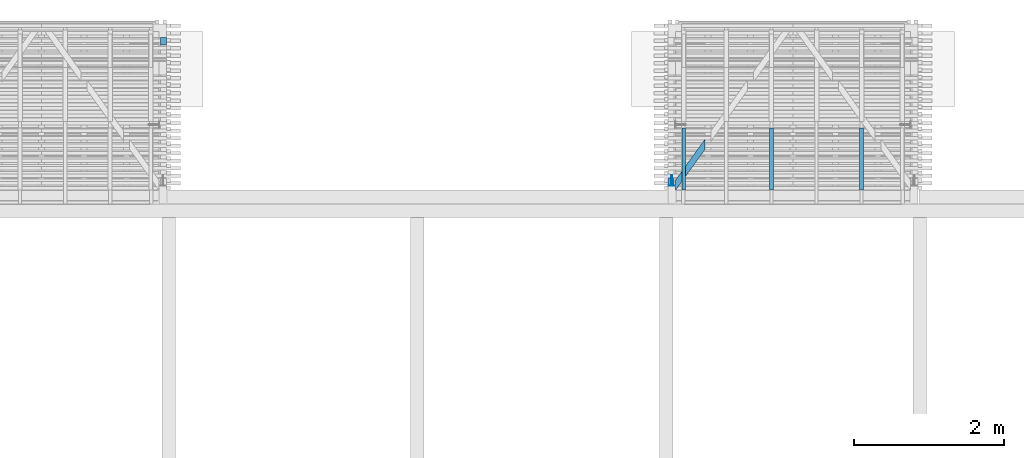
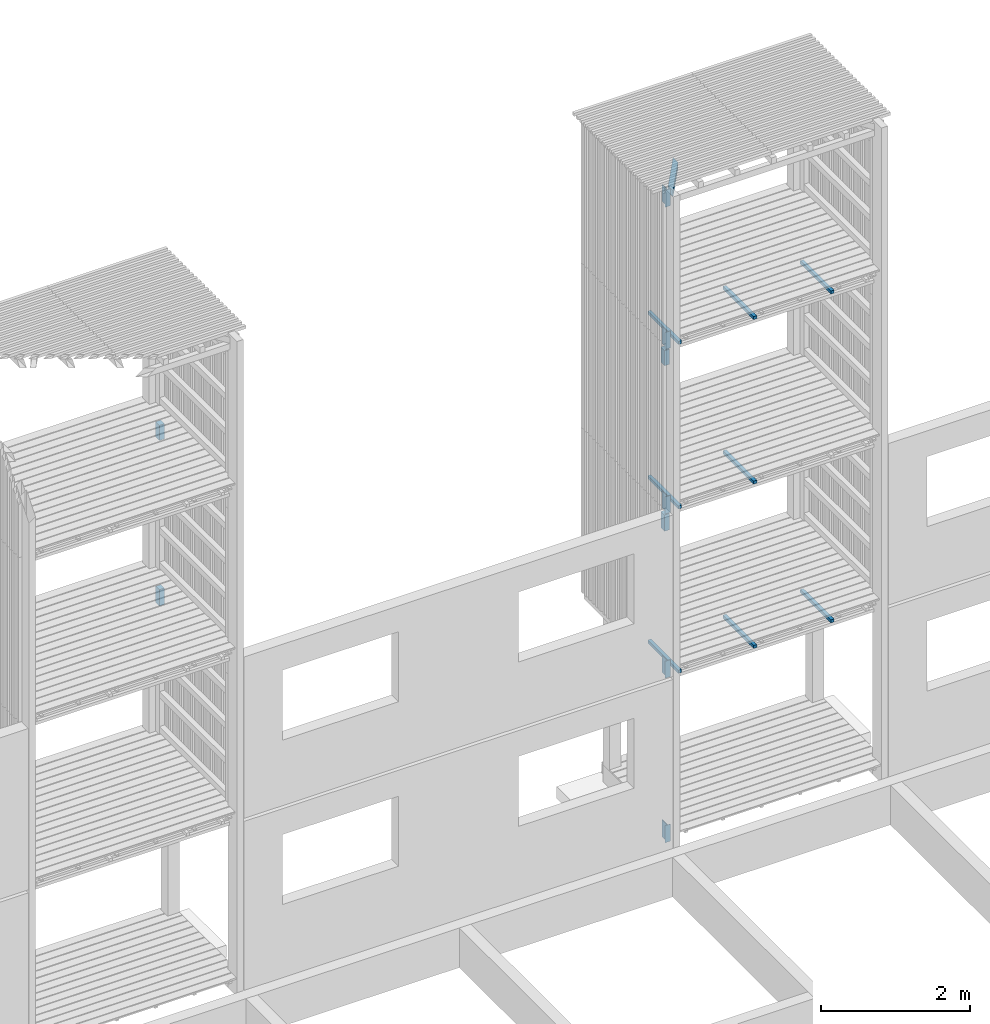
# One storey, part 164 of 182: 18 beams.
"""IFC2X3 building model written with IfcOpenShell, lengths in metres."""

from ifc_helpers import new_model, si_unit, frame, origin, place, context, project, spatial, faceted_brep, element, save


model = new_model("IFC2X3")

# Units and contexts
model_context = context("Model", 3, precision=1e-06, world=origin())
ifc_project = project(units=[si_unit("LENGTHUNIT", "METRE"), si_unit("PLANEANGLEUNIT", "RADIAN")], contexts=[model_context])

# Site, building, storey
site = spatial("IfcSite", under=ifc_project, CompositionType="ELEMENT")
building = spatial("IfcBuilding", under=site, CompositionType="ELEMENT")
storey = spatial("IfcBuildingStorey", under=building, Name="vs", CompositionType="ELEMENT", Elevation=-0.85)

# Beams
placement = place(None, origin())
beam_1_placement = place(placement, frame((13.333197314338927, 10.781077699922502, 2.579999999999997), z_axis=(0.0, 0.0, 1.0), x_axis=(1.0, 0.0, 0.0)))
element("IfcBeam", 1, at=beam_1_placement, inside=storey, Name="Contre-usinage", context=model_context, shape_type="Brep", body=[
    faceted_brep([(0.037000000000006, -0.065999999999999, -0.14), (0.037000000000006, 0.071000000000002, -0.14), (0.045000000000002, 0.071000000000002, -0.14), (0.045000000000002, -0.065999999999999, -0.14), (0.082000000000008, -0.065999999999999, -0.14), (0.082000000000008, -0.071000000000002, -0.14), (0.0, -0.071000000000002, -0.14), (0.0, -0.065999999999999, -0.14), (0.045000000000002, 0.071000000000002, -0.14), (0.037000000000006, 0.071000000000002, -0.14), (0.037000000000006, 0.071000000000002, 0.14), (0.045000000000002, 0.071000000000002, 0.14), (0.045000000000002, -0.065999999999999, 0.14), (0.045000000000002, -0.065999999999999, -0.14), (0.045000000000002, 0.071000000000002, -0.14), (0.045000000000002, 0.071000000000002, 0.14), (0.082000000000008, -0.065999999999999, -0.14), (0.045000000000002, -0.065999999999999, -0.14), (0.045000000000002, -0.065999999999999, 0.14), (0.082000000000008, -0.065999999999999, 0.14), (0.082000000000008, -0.071000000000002, -0.14), (0.082000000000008, -0.065999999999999, -0.14), (0.082000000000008, -0.065999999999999, 0.14), (0.082000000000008, -0.071000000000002, 0.14), (0.0, -0.071000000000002, -0.14), (0.082000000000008, -0.071000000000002, -0.14), (0.082000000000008, -0.071000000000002, 0.14), (0.0, -0.071000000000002, 0.14), (0.0, -0.065999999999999, -0.14), (0.0, -0.071000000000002, -0.14), (0.0, -0.071000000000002, 0.14), (0.0, -0.065999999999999, 0.14), (0.037000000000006, -0.065999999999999, -0.14), (0.0, -0.065999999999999, -0.14), (0.0, -0.065999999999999, 0.14), (0.037000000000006, -0.065999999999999, 0.14), (0.037000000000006, 0.071000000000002, 0.14), (0.037000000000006, 0.071000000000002, -0.14), (0.037000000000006, -0.065999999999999, -0.14), (0.037000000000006, -0.065999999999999, 0.14), (0.082000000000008, -0.065999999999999, 0.14), (0.045000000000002, -0.065999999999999, 0.14), (0.045000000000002, 0.071000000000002, 0.14), (0.037000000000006, 0.071000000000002, 0.14), (0.037000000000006, -0.065999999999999, 0.14), (0.0, -0.065999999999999, 0.14), (0.0, -0.071000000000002, 0.14), (0.082000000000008, -0.071000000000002, 0.14)], [[[0, 1, 2, 3, 4, 5, 6, 7]], [[8, 9, 10, 11]], [[12, 13, 14, 15]], [[16, 17, 18, 19]], [[20, 21, 22, 23]], [[24, 25, 26, 27]], [[28, 29, 30, 31]], [[32, 33, 34, 35]], [[36, 37, 38, 39]], [[40, 41, 42, 43, 44, 45, 46, 47]]]),
])
beam_2_placement = place(placement, frame((13.364197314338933, 10.760077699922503, 7.576188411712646), z_axis=(0.0, 1.0, 0.0), x_axis=(0.0, 0.0, 1.0)))
element("IfcBeam", 2, at=beam_2_placement, inside=storey, Name="Support bardage", context=model_context, shape_type="Brep", body=[
    faceted_brep([(0.248811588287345, -0.039999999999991, 0.05), (0.248811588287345, -0.039999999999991, -0.050000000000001), (0.248811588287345, 0.040000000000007, -0.050000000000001), (0.248811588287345, 0.040000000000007, 0.05), (0.248811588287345, 0.040000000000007, -0.050000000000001), (0.248811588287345, -0.039999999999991, -0.050000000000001), (0.0, -0.039999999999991, -0.050000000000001), (0.0, 0.040000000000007, -0.050000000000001), (0.248811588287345, -0.039999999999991, -0.050000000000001), (0.248811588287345, -0.039999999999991, 0.05), (0.0, -0.039999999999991, 0.05), (0.0, -0.039999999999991, -0.050000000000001), (0.248811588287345, -0.039999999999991, 0.05), (0.248811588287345, 0.040000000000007, 0.05), (0.0, 0.040000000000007, 0.05), (0.0, -0.039999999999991, 0.05), (0.248811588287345, 0.040000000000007, 0.05), (0.248811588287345, 0.040000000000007, -0.050000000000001), (0.0, 0.040000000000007, -0.050000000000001), (0.0, 0.040000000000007, 0.05), (0.0, -0.039999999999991, 0.05), (0.0, 0.040000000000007, 0.05), (0.0, 0.040000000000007, -0.050000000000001), (0.0, -0.039999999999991, -0.050000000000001)], [[[0, 1, 2, 3]], [[4, 5, 6, 7]], [[8, 9, 10, 11]], [[12, 13, 14, 15]], [[16, 17, 18, 19]], [[20, 21, 22, 23]]]),
])
beam_3_placement = place(placement, frame((13.333197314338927, 10.781077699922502, -0.119999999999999), z_axis=(0.0, 0.0, 1.0), x_axis=(1.0, 0.0, 0.0)))
element("IfcBeam", 3, at=beam_3_placement, inside=storey, Name="Contre-usinage", context=model_context, shape_type="Brep", body=[
    faceted_brep([(0.037000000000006, -0.065999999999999, -0.14), (0.037000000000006, 0.071000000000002, -0.14), (0.045000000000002, 0.071000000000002, -0.14), (0.045000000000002, -0.065999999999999, -0.14), (0.082000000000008, -0.065999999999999, -0.14), (0.082000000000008, -0.071000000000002, -0.14), (0.0, -0.071000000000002, -0.14), (0.0, -0.065999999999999, -0.14), (0.045000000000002, 0.071000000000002, -0.14), (0.037000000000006, 0.071000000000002, -0.14), (0.037000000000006, 0.071000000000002, 0.14), (0.045000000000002, 0.071000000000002, 0.14), (0.045000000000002, -0.065999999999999, 0.14), (0.045000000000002, -0.065999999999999, -0.14), (0.045000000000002, 0.071000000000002, -0.14), (0.045000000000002, 0.071000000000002, 0.14), (0.082000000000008, -0.065999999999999, -0.14), (0.045000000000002, -0.065999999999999, -0.14), (0.045000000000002, -0.065999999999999, 0.14), (0.082000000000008, -0.065999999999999, 0.14), (0.082000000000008, -0.071000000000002, -0.14), (0.082000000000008, -0.065999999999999, -0.14), (0.082000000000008, -0.065999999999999, 0.14), (0.082000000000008, -0.071000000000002, 0.14), (0.0, -0.071000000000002, -0.14), (0.082000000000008, -0.071000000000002, -0.14), (0.082000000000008, -0.071000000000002, 0.14), (0.0, -0.071000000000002, 0.14), (0.0, -0.065999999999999, -0.14), (0.0, -0.071000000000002, -0.14), (0.0, -0.071000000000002, 0.14), (0.0, -0.065999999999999, 0.14), (0.037000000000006, -0.065999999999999, -0.14), (0.0, -0.065999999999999, -0.14), (0.0, -0.065999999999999, 0.14), (0.037000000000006, -0.065999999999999, 0.14), (0.037000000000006, 0.071000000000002, 0.14), (0.037000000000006, 0.071000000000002, -0.14), (0.037000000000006, -0.065999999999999, -0.14), (0.037000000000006, -0.065999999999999, 0.14), (0.082000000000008, -0.065999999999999, 0.14), (0.045000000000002, -0.065999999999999, 0.14), (0.045000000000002, 0.071000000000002, 0.14), (0.037000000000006, 0.071000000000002, 0.14), (0.037000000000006, -0.065999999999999, 0.14), (0.0, -0.065999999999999, 0.14), (0.0, -0.071000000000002, 0.14), (0.082000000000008, -0.071000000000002, 0.14)], [[[0, 1, 2, 3, 4, 5, 6, 7]], [[8, 9, 10, 11]], [[12, 13, 14, 15]], [[16, 17, 18, 19]], [[20, 21, 22, 23]], [[24, 25, 26, 27]], [[28, 29, 30, 31]], [[32, 33, 34, 35]], [[36, 37, 38, 39]], [[40, 41, 42, 43, 44, 45, 46, 47]]]),
])
beam_4_placement = place(placement, frame((6.604197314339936, 12.640077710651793, 4.85796194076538), z_axis=(0.0, -1.0, 0.0), x_axis=(0.0, 0.0, 1.0)))
element("IfcBeam", 4, at=beam_4_placement, inside=storey, Name="Support bardage", context=model_context, shape_type="Brep", body=[
    faceted_brep([(0.267038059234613, -0.039999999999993, -0.05), (0.267038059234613, 0.04000000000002, -0.05), (0.267038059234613, 0.04000000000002, 0.050000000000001), (0.267038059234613, -0.039999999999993, 0.050000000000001), (0.267038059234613, -0.039999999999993, -0.05), (0.267038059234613, -0.039999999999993, 0.050000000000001), (0.0, -0.039999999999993, 0.050000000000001), (0.0, -0.039999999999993, -0.05), (0.267038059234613, 0.04000000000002, -0.05), (0.267038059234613, -0.039999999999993, -0.05), (0.0, -0.039999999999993, -0.05), (0.0, 0.04000000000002, -0.05), (0.0, -0.039999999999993, 0.050000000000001), (0.267038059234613, -0.039999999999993, 0.050000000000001), (0.267038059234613, 0.04000000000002, 0.050000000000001), (0.0, 0.04000000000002, 0.050000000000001), (0.0, 0.04000000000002, 0.050000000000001), (0.267038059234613, 0.04000000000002, 0.050000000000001), (0.267038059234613, 0.04000000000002, -0.05), (0.0, 0.04000000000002, -0.05), (0.0, -0.039999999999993, 0.050000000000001), (0.0, 0.04000000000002, 0.050000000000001), (0.0, 0.04000000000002, -0.05), (0.0, -0.039999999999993, -0.05)], [[[0, 1, 2, 3]], [[4, 5, 6, 7]], [[8, 9, 10, 11]], [[12, 13, 14, 15]], [[16, 17, 18, 19]], [[20, 21, 22, 23]]]),
])
beam_5_placement = place(placement, frame((13.364197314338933, 10.760077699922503, 4.85796194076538), z_axis=(0.0, 1.0, 0.0), x_axis=(0.0, 0.0, 1.0)))
element("IfcBeam", 5, at=beam_5_placement, inside=storey, Name="Support bardage", context=model_context, shape_type="Brep", body=[
    faceted_brep([(0.267038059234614, -0.039999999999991, 0.05), (0.267038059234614, -0.039999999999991, -0.050000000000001), (0.267038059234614, 0.040000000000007, -0.050000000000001), (0.267038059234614, 0.040000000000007, 0.05), (0.267038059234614, 0.040000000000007, -0.050000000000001), (0.267038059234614, -0.039999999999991, -0.050000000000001), (0.0, -0.039999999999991, -0.050000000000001), (0.0, 0.040000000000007, -0.050000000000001), (0.267038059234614, 0.040000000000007, 0.05), (0.267038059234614, 0.040000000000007, -0.050000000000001), (0.0, 0.040000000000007, -0.050000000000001), (0.0, 0.040000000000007, 0.05), (0.267038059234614, -0.039999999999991, -0.050000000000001), (0.267038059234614, -0.039999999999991, 0.05), (0.0, -0.039999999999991, 0.05), (0.0, -0.039999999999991, -0.050000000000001), (0.267038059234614, -0.039999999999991, 0.05), (0.267038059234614, 0.040000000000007, 0.05), (0.0, 0.040000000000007, 0.05), (0.0, -0.039999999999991, 0.05), (0.0, -0.039999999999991, -0.050000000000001), (0.0, -0.039999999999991, 0.05), (0.0, 0.040000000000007, 0.05), (0.0, 0.040000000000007, -0.050000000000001)], [[[0, 1, 2, 3]], [[4, 5, 6, 7]], [[8, 9, 10, 11]], [[12, 13, 14, 15]], [[16, 17, 18, 19]], [[20, 21, 22, 23]]]),
])
beam_6_placement = place(placement, frame((6.604197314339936, 12.640077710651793, 7.576188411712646), z_axis=(0.0, -1.0, 0.0), x_axis=(0.0, 0.0, 1.0)))
element("IfcBeam", 6, at=beam_6_placement, inside=storey, Name="Support bardage", context=model_context, shape_type="Brep", body=[
    faceted_brep([(0.248811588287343, -0.039999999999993, -0.05), (0.248811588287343, 0.04000000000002, -0.05), (0.248811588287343, 0.04000000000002, 0.050000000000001), (0.248811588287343, -0.039999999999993, 0.050000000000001), (0.248811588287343, -0.039999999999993, -0.05), (0.248811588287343, -0.039999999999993, 0.050000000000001), (0.0, -0.039999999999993, 0.050000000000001), (0.0, -0.039999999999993, -0.05), (0.0, -0.039999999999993, 0.050000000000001), (0.248811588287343, -0.039999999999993, 0.050000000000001), (0.248811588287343, 0.04000000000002, 0.050000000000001), (0.0, 0.04000000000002, 0.050000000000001), (0.0, 0.04000000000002, 0.050000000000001), (0.248811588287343, 0.04000000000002, 0.050000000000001), (0.248811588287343, 0.04000000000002, -0.05), (0.0, 0.04000000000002, -0.05), (0.0, 0.04000000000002, -0.05), (0.248811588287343, 0.04000000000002, -0.05), (0.248811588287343, -0.039999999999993, -0.05), (0.0, -0.039999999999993, -0.05), (0.0, 0.04000000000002, 0.050000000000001), (0.0, 0.04000000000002, -0.05), (0.0, -0.039999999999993, -0.05), (0.0, -0.039999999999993, 0.050000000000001)], [[[0, 1, 2, 3]], [[4, 5, 6, 7]], [[8, 9, 10, 11]], [[12, 13, 14, 15]], [[16, 17, 18, 19]], [[20, 21, 22, 23]]]),
])
beam_7_placement = place(placement, frame((15.90219731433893, 10.655077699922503, 2.517999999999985), z_axis=(0.0, 0.0, 1.0), x_axis=(0.0, 1.0, 0.0)))
element("IfcBeam", 7, at=beam_7_placement, inside=storey, Name="Calage", context=model_context, shape_type="Brep", body=[
    faceted_brep([(0.824999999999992, -0.025000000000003, 0.025), (0.824999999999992, 0.024999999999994, 0.025), (-1e-15, 0.024999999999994, 0.025), (-1e-15, -0.025000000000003, 0.025), (-1e-15, 0.024999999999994, 0.025), (0.824999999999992, 0.024999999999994, 0.025), (0.824999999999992, 0.024999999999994, -0.025), (-1e-15, 0.024999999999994, -0.025), (0.824999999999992, 0.024999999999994, 0.025), (0.824999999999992, -0.025000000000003, 0.025), (0.824999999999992, -0.025000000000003, -0.025), (0.824999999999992, 0.024999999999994, -0.025), (0.824999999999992, -0.025000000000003, -0.025), (0.824999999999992, -0.025000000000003, 0.025), (-1e-15, -0.025000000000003, 0.025), (-1e-15, -0.025000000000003, -0.025), (-1e-15, 0.024999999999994, -0.025), (0.824999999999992, 0.024999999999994, -0.025), (0.824999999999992, -0.025000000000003, -0.025), (-1e-15, -0.025000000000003, -0.025), (-1e-15, 0.024999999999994, 0.025), (-1e-15, 0.024999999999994, -0.025), (-1e-15, -0.025000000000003, -0.025), (-1e-15, -0.025000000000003, 0.025)], [[[0, 1, 2, 3]], [[4, 5, 6, 7]], [[8, 9, 10, 11]], [[12, 13, 14, 15]], [[16, 17, 18, 19]], [[20, 21, 22, 23]]]),
])
for number, where, z_axis, x_axis in (
    (8, (14.702197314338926, 10.655077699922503, 2.517999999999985), (0.0, 0.0, 1.0), (0.0, 1.0, 0.0)),
    (9, (13.534197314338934, 10.655077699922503, 2.517999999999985), (0.0, 0.0, 1.0), (0.0, 1.0, 0.0)),
):
    element("IfcBeam", number, at=place(placement, frame(where, z_axis=z_axis, x_axis=x_axis)), inside=storey, Name="Calage", context=model_context, shape_type="Brep", body=[
        faceted_brep([(0.824999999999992, -0.025000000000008, 0.025), (0.824999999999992, 0.024999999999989, 0.025), (-1e-15, 0.024999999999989, 0.025), (-1e-15, -0.025000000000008, 0.025), (-1e-15, 0.024999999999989, 0.025), (0.824999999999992, 0.024999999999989, 0.025), (0.824999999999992, 0.024999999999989, -0.025), (-1e-15, 0.024999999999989, -0.025), (0.824999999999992, 0.024999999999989, 0.025), (0.824999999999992, -0.025000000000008, 0.025), (0.824999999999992, -0.025000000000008, -0.025), (0.824999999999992, 0.024999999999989, -0.025), (0.824999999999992, -0.025000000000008, -0.025), (0.824999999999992, -0.025000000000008, 0.025), (-1e-15, -0.025000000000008, 0.025), (-1e-15, -0.025000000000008, -0.025), (-1e-15, 0.024999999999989, -0.025), (0.824999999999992, 0.024999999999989, -0.025), (0.824999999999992, -0.025000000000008, -0.025), (-1e-15, -0.025000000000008, -0.025), (-1e-15, 0.024999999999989, 0.025), (-1e-15, 0.024999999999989, -0.025), (-1e-15, -0.025000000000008, -0.025), (-1e-15, -0.025000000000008, 0.025)], [[[0, 1, 2, 3]], [[4, 5, 6, 7]], [[8, 9, 10, 11]], [[12, 13, 14, 15]], [[16, 17, 18, 19]], [[20, 21, 22, 23]]]),
    ])
beam_8_placement = place(placement, frame((13.33319731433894, 10.781077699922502, 10.314999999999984), z_axis=(0.0, 0.0, 1.0), x_axis=(1.0, 0.0, 0.0)))
element("IfcBeam", 10, at=beam_8_placement, inside=storey, Name="Contre-usinage", context=model_context, shape_type="Brep", body=[
    faceted_brep([(0.037000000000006, -0.065999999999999, -0.140000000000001), (0.037000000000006, 0.071000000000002, -0.140000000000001), (0.045000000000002, 0.071000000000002, -0.140000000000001), (0.045000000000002, -0.065999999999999, -0.140000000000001), (0.081999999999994, -0.065999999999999, -0.140000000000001), (0.081999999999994, -0.071000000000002, -0.140000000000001), (0.0, -0.071000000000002, -0.140000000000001), (0.0, -0.065999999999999, -0.140000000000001), (0.045000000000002, 0.071000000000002, -0.140000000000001), (0.037000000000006, 0.071000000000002, -0.140000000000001), (0.037000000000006, 0.071000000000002, 0.140000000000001), (0.045000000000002, 0.071000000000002, 0.140000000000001), (0.045000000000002, -0.065999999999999, 0.140000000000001), (0.045000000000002, -0.065999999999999, -0.140000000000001), (0.045000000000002, 0.071000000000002, -0.140000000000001), (0.045000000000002, 0.071000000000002, 0.140000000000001), (0.081999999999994, -0.065999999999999, -0.140000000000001), (0.045000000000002, -0.065999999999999, -0.140000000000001), (0.045000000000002, -0.065999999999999, 0.140000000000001), (0.081999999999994, -0.065999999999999, 0.140000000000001), (0.081999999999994, -0.071000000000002, -0.140000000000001), (0.081999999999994, -0.065999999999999, -0.140000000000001), (0.081999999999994, -0.065999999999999, 0.140000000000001), (0.081999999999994, -0.071000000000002, 0.140000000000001), (0.0, -0.071000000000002, -0.140000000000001), (0.081999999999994, -0.071000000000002, -0.140000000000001), (0.081999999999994, -0.071000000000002, 0.140000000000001), (0.0, -0.071000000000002, 0.140000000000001), (0.0, -0.065999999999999, -0.140000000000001), (0.0, -0.071000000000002, -0.140000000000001), (0.0, -0.071000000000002, 0.140000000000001), (0.0, -0.065999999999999, 0.140000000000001), (0.037000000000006, -0.065999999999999, -0.140000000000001), (0.0, -0.065999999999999, -0.140000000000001), (0.0, -0.065999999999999, 0.140000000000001), (0.037000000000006, -0.065999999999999, 0.140000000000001), (0.037000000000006, 0.071000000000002, 0.140000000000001), (0.037000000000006, 0.071000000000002, -0.140000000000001), (0.037000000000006, -0.065999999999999, -0.140000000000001), (0.037000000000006, -0.065999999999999, 0.140000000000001), (0.081999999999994, -0.065999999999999, 0.140000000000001), (0.045000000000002, -0.065999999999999, 0.140000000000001), (0.045000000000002, 0.071000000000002, 0.140000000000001), (0.037000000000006, 0.071000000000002, 0.140000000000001), (0.037000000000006, -0.065999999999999, 0.140000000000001), (0.0, -0.065999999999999, 0.140000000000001), (0.0, -0.071000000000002, 0.140000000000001), (0.081999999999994, -0.071000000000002, 0.140000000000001)], [[[0, 1, 2, 3, 4, 5, 6, 7]], [[8, 9, 10, 11]], [[12, 13, 14, 15]], [[16, 17, 18, 19]], [[20, 21, 22, 23]], [[24, 25, 26, 27]], [[28, 29, 30, 31]], [[32, 33, 34, 35]], [[36, 37, 38, 39]], [[40, 41, 42, 43, 44, 45, 46, 47]]]),
])
beam_9_placement = place(placement, frame((13.534197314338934, 10.655077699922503, 5.217999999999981), z_axis=(0.0, 0.0, 1.0), x_axis=(0.0, 1.0, 0.0)))
element("IfcBeam", 11, at=beam_9_placement, inside=storey, Name="Calage", context=model_context, shape_type="Brep", body=[
    faceted_brep([(0.824999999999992, -0.025000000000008, 0.024999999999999), (0.824999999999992, 0.024999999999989, 0.024999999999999), (-1e-15, 0.024999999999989, 0.024999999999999), (-1e-15, -0.025000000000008, 0.024999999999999), (-1e-15, 0.024999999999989, 0.024999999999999), (0.824999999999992, 0.024999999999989, 0.024999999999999), (0.824999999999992, 0.024999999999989, -0.025), (-1e-15, 0.024999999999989, -0.025), (0.824999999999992, 0.024999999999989, 0.024999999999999), (0.824999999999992, -0.025000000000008, 0.024999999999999), (0.824999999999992, -0.025000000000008, -0.025), (0.824999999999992, 0.024999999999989, -0.025), (0.824999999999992, -0.025000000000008, -0.025), (0.824999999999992, -0.025000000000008, 0.024999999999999), (-1e-15, -0.025000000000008, 0.024999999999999), (-1e-15, -0.025000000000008, -0.025), (-1e-15, 0.024999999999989, -0.025), (0.824999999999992, 0.024999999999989, -0.025), (0.824999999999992, -0.025000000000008, -0.025), (-1e-15, -0.025000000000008, -0.025), (-1e-15, 0.024999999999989, 0.024999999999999), (-1e-15, 0.024999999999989, -0.025), (-1e-15, -0.025000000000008, -0.025), (-1e-15, -0.025000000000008, 0.024999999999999)], [[[0, 1, 2, 3]], [[4, 5, 6, 7]], [[8, 9, 10, 11]], [[12, 13, 14, 15]], [[16, 17, 18, 19]], [[20, 21, 22, 23]]]),
])
beam_10_placement = place(placement, frame((13.333197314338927, 10.781077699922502, 5.279999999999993), z_axis=(0.0, 0.0, 1.0), x_axis=(1.0, 0.0, 0.0)))
element("IfcBeam", 12, at=beam_10_placement, inside=storey, Name="Contre-usinage", context=model_context, shape_type="Brep", body=[
    faceted_brep([(0.037000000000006, -0.065999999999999, -0.140000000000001), (0.037000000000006, 0.071000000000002, -0.140000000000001), (0.045000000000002, 0.071000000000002, -0.140000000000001), (0.045000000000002, -0.065999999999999, -0.140000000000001), (0.082000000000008, -0.065999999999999, -0.140000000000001), (0.082000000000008, -0.071000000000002, -0.140000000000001), (0.0, -0.071000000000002, -0.140000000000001), (0.0, -0.065999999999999, -0.140000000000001), (0.045000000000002, 0.071000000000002, -0.140000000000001), (0.037000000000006, 0.071000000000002, -0.140000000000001), (0.037000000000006, 0.071000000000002, 0.140000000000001), (0.045000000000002, 0.071000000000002, 0.140000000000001), (0.045000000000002, -0.065999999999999, 0.140000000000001), (0.045000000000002, -0.065999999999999, -0.140000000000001), (0.045000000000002, 0.071000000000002, -0.140000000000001), (0.045000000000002, 0.071000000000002, 0.140000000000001), (0.082000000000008, -0.065999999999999, -0.140000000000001), (0.045000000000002, -0.065999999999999, -0.140000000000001), (0.045000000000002, -0.065999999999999, 0.140000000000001), (0.082000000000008, -0.065999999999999, 0.140000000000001), (0.082000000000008, -0.071000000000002, -0.140000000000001), (0.082000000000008, -0.065999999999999, -0.140000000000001), (0.082000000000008, -0.065999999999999, 0.140000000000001), (0.082000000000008, -0.071000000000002, 0.140000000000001), (0.0, -0.071000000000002, -0.140000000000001), (0.082000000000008, -0.071000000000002, -0.140000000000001), (0.082000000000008, -0.071000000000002, 0.140000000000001), (0.0, -0.071000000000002, 0.140000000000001), (0.0, -0.065999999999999, -0.140000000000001), (0.0, -0.071000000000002, -0.140000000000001), (0.0, -0.071000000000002, 0.140000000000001), (0.0, -0.065999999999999, 0.140000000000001), (0.037000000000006, -0.065999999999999, -0.140000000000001), (0.0, -0.065999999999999, -0.140000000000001), (0.0, -0.065999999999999, 0.140000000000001), (0.037000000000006, -0.065999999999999, 0.140000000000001), (0.037000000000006, 0.071000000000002, 0.140000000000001), (0.037000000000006, 0.071000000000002, -0.140000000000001), (0.037000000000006, -0.065999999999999, -0.140000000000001), (0.037000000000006, -0.065999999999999, 0.140000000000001), (0.082000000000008, -0.065999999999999, 0.140000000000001), (0.045000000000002, -0.065999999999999, 0.140000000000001), (0.045000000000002, 0.071000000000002, 0.140000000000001), (0.037000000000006, 0.071000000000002, 0.140000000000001), (0.037000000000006, -0.065999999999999, 0.140000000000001), (0.0, -0.065999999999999, 0.140000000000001), (0.0, -0.071000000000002, 0.140000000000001), (0.082000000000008, -0.071000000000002, 0.140000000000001)], [[[0, 1, 2, 3, 4, 5, 6, 7]], [[8, 9, 10, 11]], [[12, 13, 14, 15]], [[16, 17, 18, 19]], [[20, 21, 22, 23]], [[24, 25, 26, 27]], [[28, 29, 30, 31]], [[32, 33, 34, 35]], [[36, 37, 38, 39]], [[40, 41, 42, 43, 44, 45, 46, 47]]]),
])
beam_11_placement = place(placement, frame((13.33319731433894, 10.781077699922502, 7.979999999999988), z_axis=(0.0, 0.0, 1.0), x_axis=(1.0, 0.0, 0.0)))
element("IfcBeam", 13, at=beam_11_placement, inside=storey, Name="Contre-usinage", context=model_context, shape_type="Brep", body=[
    faceted_brep([(0.036999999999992, -0.065999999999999, -0.14), (0.036999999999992, 0.071000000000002, -0.14), (0.044999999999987, 0.071000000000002, -0.14), (0.044999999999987, -0.065999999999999, -0.14), (0.081999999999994, -0.065999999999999, -0.14), (0.081999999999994, -0.071000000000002, -0.14), (0.0, -0.071000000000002, -0.14), (0.0, -0.065999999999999, -0.14), (0.044999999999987, 0.071000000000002, -0.14), (0.036999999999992, 0.071000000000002, -0.14), (0.036999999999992, 0.071000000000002, 0.140000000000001), (0.044999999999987, 0.071000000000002, 0.140000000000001), (0.044999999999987, -0.065999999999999, 0.140000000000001), (0.044999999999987, -0.065999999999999, -0.14), (0.044999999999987, 0.071000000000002, -0.14), (0.044999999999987, 0.071000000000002, 0.140000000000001), (0.081999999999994, -0.065999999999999, -0.14), (0.044999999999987, -0.065999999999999, -0.14), (0.044999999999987, -0.065999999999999, 0.140000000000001), (0.081999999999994, -0.065999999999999, 0.140000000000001), (0.081999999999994, -0.071000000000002, -0.14), (0.081999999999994, -0.065999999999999, -0.14), (0.081999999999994, -0.065999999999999, 0.140000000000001), (0.081999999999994, -0.071000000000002, 0.140000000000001), (0.0, -0.071000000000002, -0.14), (0.081999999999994, -0.071000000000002, -0.14), (0.081999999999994, -0.071000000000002, 0.140000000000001), (0.0, -0.071000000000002, 0.140000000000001), (0.0, -0.065999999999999, -0.14), (0.0, -0.071000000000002, -0.14), (0.0, -0.071000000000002, 0.140000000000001), (0.0, -0.065999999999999, 0.140000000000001), (0.036999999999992, -0.065999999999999, -0.14), (0.0, -0.065999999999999, -0.14), (0.0, -0.065999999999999, 0.140000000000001), (0.036999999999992, -0.065999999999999, 0.140000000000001), (0.036999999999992, 0.071000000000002, 0.140000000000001), (0.036999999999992, 0.071000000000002, -0.14), (0.036999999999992, -0.065999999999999, -0.14), (0.036999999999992, -0.065999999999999, 0.140000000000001), (0.081999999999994, -0.065999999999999, 0.140000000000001), (0.044999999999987, -0.065999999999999, 0.140000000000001), (0.044999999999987, 0.071000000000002, 0.140000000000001), (0.036999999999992, 0.071000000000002, 0.140000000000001), (0.036999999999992, -0.065999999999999, 0.140000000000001), (0.0, -0.065999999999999, 0.140000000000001), (0.0, -0.071000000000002, 0.140000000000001), (0.081999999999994, -0.071000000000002, 0.140000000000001)], [[[0, 1, 2, 3, 4, 5, 6, 7]], [[8, 9, 10, 11]], [[12, 13, 14, 15]], [[16, 17, 18, 19]], [[20, 21, 22, 23]], [[24, 25, 26, 27]], [[28, 29, 30, 31]], [[32, 33, 34, 35]], [[36, 37, 38, 39]], [[40, 41, 42, 43, 44, 45, 46, 47]]]),
])
beam_12_placement = place(placement, frame((13.534197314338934, 10.655077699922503, 7.917999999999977), z_axis=(0.0, 0.0, 1.0), x_axis=(0.0, 1.0, 0.0)))
element("IfcBeam", 14, at=beam_12_placement, inside=storey, Name="Calage", context=model_context, shape_type="Brep", body=[
    faceted_brep([(0.824999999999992, -0.025000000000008, 0.024999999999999), (0.824999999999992, 0.024999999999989, 0.024999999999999), (-1e-15, 0.024999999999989, 0.024999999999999), (-1e-15, -0.025000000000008, 0.024999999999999), (-1e-15, 0.024999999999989, 0.024999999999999), (0.824999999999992, 0.024999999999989, 0.024999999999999), (0.824999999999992, 0.024999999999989, -0.025), (-1e-15, 0.024999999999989, -0.025), (0.824999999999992, 0.024999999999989, 0.024999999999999), (0.824999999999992, -0.025000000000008, 0.024999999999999), (0.824999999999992, -0.025000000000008, -0.025), (0.824999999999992, 0.024999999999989, -0.025), (0.824999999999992, -0.025000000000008, -0.025), (0.824999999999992, -0.025000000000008, 0.024999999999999), (-1e-15, -0.025000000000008, 0.024999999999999), (-1e-15, -0.025000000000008, -0.025), (-1e-15, 0.024999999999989, -0.025), (0.824999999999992, 0.024999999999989, -0.025), (0.824999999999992, -0.025000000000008, -0.025), (-1e-15, -0.025000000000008, -0.025), (-1e-15, 0.024999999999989, 0.024999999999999), (-1e-15, 0.024999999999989, -0.025), (-1e-15, -0.025000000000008, -0.025), (-1e-15, -0.025000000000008, 0.024999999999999)], [[[0, 1, 2, 3]], [[4, 5, 6, 7]], [[8, 9, 10, 11]], [[12, 13, 14, 15]], [[16, 17, 18, 19]], [[20, 21, 22, 23]]]),
])
beam_13_placement = place(placement, frame((14.70219731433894, 10.655077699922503, 7.917999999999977), z_axis=(0.0, 0.0, 1.0), x_axis=(0.0, 1.0, 0.0)))
element("IfcBeam", 15, at=beam_13_placement, inside=storey, Name="Calage", context=model_context, shape_type="Brep", body=[
    faceted_brep([(0.824999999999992, -0.024999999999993, 0.024999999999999), (0.824999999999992, 0.025000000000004, 0.024999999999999), (-1e-15, 0.025000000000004, 0.024999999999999), (-1e-15, -0.024999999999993, 0.024999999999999), (-1e-15, 0.025000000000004, 0.024999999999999), (0.824999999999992, 0.025000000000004, 0.024999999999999), (0.824999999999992, 0.025000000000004, -0.025), (-1e-15, 0.025000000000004, -0.025), (0.824999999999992, 0.025000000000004, 0.024999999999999), (0.824999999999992, -0.024999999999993, 0.024999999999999), (0.824999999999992, -0.024999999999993, -0.025), (0.824999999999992, 0.025000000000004, -0.025), (0.824999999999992, -0.024999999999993, -0.025), (0.824999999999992, -0.024999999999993, 0.024999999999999), (-1e-15, -0.024999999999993, 0.024999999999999), (-1e-15, -0.024999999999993, -0.025), (-1e-15, 0.025000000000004, -0.025), (0.824999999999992, 0.025000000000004, -0.025), (0.824999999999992, -0.024999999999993, -0.025), (-1e-15, -0.024999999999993, -0.025), (-1e-15, 0.025000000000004, 0.024999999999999), (-1e-15, 0.025000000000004, -0.025), (-1e-15, -0.024999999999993, -0.025), (-1e-15, -0.024999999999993, 0.024999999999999)], [[[0, 1, 2, 3]], [[4, 5, 6, 7]], [[8, 9, 10, 11]], [[12, 13, 14, 15]], [[16, 17, 18, 19]], [[20, 21, 22, 23]]]),
])
beam_14_placement = place(placement, frame((15.90219731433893, 10.655077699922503, 7.917999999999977), z_axis=(0.0, 0.0, 1.0), x_axis=(0.0, 1.0, 0.0)))
element("IfcBeam", 16, at=beam_14_placement, inside=storey, Name="Calage", context=model_context, shape_type="Brep", body=[
    faceted_brep([(0.824999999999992, -0.025000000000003, 0.024999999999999), (0.824999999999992, 0.024999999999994, 0.024999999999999), (-1e-15, 0.024999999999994, 0.024999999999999), (-1e-15, -0.025000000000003, 0.024999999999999), (-1e-15, 0.024999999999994, 0.024999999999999), (0.824999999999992, 0.024999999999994, 0.024999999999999), (0.824999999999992, 0.024999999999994, -0.025), (-1e-15, 0.024999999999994, -0.025), (0.824999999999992, 0.024999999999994, 0.024999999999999), (0.824999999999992, -0.025000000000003, 0.024999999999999), (0.824999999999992, -0.025000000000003, -0.025), (0.824999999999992, 0.024999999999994, -0.025), (0.824999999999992, -0.025000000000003, -0.025), (0.824999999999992, -0.025000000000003, 0.024999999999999), (-1e-15, -0.025000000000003, 0.024999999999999), (-1e-15, -0.025000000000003, -0.025), (-1e-15, 0.024999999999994, -0.025), (0.824999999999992, 0.024999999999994, -0.025), (0.824999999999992, -0.025000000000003, -0.025), (-1e-15, -0.025000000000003, -0.025), (-1e-15, 0.024999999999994, 0.024999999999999), (-1e-15, 0.024999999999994, -0.025), (-1e-15, -0.025000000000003, -0.025), (-1e-15, -0.025000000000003, 0.024999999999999)], [[[0, 1, 2, 3]], [[4, 5, 6, 7]], [[8, 9, 10, 11]], [[12, 13, 14, 15]], [[16, 17, 18, 19]], [[20, 21, 22, 23]]]),
])
beam_15_placement = place(placement, frame((13.391725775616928, 10.673435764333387, 10.404999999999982), z_axis=(0.0, 0.0, 1.0), x_axis=(0.583951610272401, 0.811788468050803, 0.0)))
element("IfcBeam", 17, at=beam_15_placement, inside=storey, Name="Support bardage", context=model_context, shape_type="Brep", body=[
    faceted_brep([(0.670717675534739, -0.039999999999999, 0.050000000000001), (0.670717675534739, -0.039999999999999, -0.050000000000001), (0.781930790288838, 0.040000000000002, -0.050000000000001), (0.781930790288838, 0.040000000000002, 0.050000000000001), (4e-15, -0.040000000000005, 0.050000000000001), (0.670717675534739, -0.039999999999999, 0.050000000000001), (0.781930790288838, 0.040000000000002, 0.050000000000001), (0.111213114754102, 0.039999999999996, 0.050000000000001), (0.111213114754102, 0.039999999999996, -0.049999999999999), (0.781930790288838, 0.040000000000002, -0.050000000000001), (0.670717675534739, -0.039999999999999, -0.050000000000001), (4e-15, -0.040000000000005, -0.050000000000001), (4e-15, -0.040000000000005, -0.050000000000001), (0.670717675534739, -0.039999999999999, -0.050000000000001), (0.670717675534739, -0.039999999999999, 0.050000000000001), (4e-15, -0.040000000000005, 0.050000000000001), (0.111213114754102, 0.039999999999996, -0.049999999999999), (4e-15, -0.040000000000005, -0.050000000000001), (4e-15, -0.040000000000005, 0.050000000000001), (0.111213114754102, 0.039999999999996, 0.050000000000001), (0.111213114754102, 0.039999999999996, -0.049999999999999), (0.111213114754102, 0.039999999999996, 0.050000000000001), (0.781930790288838, 0.040000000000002, 0.050000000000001), (0.781930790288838, 0.040000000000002, -0.050000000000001)], [[[0, 1, 2, 3]], [[4, 5, 6, 7]], [[8, 9, 10, 11]], [[12, 13, 14, 15]], [[16, 17, 18, 19]], [[20, 21, 22, 23]]]),
])
beam_16_placement = place(placement, frame((14.702197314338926, 10.655077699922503, 5.217999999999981), z_axis=(0.0, 0.0, 1.0), x_axis=(0.0, 1.0, 0.0)))
element("IfcBeam", 18, at=beam_16_placement, inside=storey, Name="Calage", context=model_context, shape_type="Brep", body=[
    faceted_brep([(0.824999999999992, -0.025000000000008, 0.024999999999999), (0.824999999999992, 0.024999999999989, 0.024999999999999), (-1e-15, 0.024999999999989, 0.024999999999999), (-1e-15, -0.025000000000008, 0.024999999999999), (-1e-15, 0.024999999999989, 0.024999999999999), (0.824999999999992, 0.024999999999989, 0.024999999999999), (0.824999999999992, 0.024999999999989, -0.025), (-1e-15, 0.024999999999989, -0.025), (0.824999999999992, 0.024999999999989, 0.024999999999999), (0.824999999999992, -0.025000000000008, 0.024999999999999), (0.824999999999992, -0.025000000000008, -0.025), (0.824999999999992, 0.024999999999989, -0.025), (0.824999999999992, -0.025000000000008, -0.025), (0.824999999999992, -0.025000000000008, 0.024999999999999), (-1e-15, -0.025000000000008, 0.024999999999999), (-1e-15, -0.025000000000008, -0.025), (-1e-15, 0.024999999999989, -0.025), (0.824999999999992, 0.024999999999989, -0.025), (0.824999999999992, -0.025000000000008, -0.025), (-1e-15, -0.025000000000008, -0.025), (-1e-15, 0.024999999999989, 0.024999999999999), (-1e-15, 0.024999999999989, -0.025), (-1e-15, -0.025000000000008, -0.025), (-1e-15, -0.025000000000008, 0.024999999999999)], [[[0, 1, 2, 3]], [[4, 5, 6, 7]], [[8, 9, 10, 11]], [[12, 13, 14, 15]], [[16, 17, 18, 19]], [[20, 21, 22, 23]]]),
])

save(model, "model.ifc")
